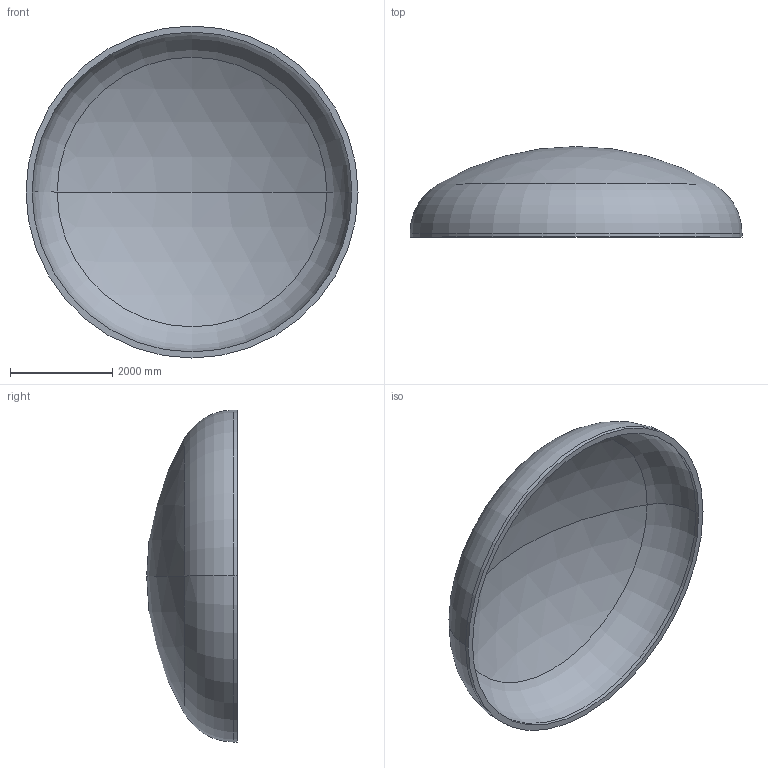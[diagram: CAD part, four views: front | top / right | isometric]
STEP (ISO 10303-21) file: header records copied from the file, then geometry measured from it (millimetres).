
FILE_DESCRIPTION (( 'STEP AP203' ), '1' );
FILE_NAME ('DIN 28013 Korbbogenform_-_Boden DIN 28013 - 6500 x 75 - I - s=118.step', '2016-07-04T10:44:35', ( '' ), ( '' ), 'SwSTEP 2.0', 'SolidWorks 2013', '' );
FILE_SCHEMA (( 'CONFIG_CONTROL_DESIGN' ));
Length unit declared in the file: millimetre
Products named in the file (1): DIN 28013 Korbbogenform_-_Boden DIN 28013 - 6500 x 75 - I - s=118
Bounding box: 6500 x 1774.36 x 6500 mm (x, y, z)
Volume: 5471213964.5 mm3; surface area: 95127425.7 mm2
Topology: 1 solids, 1 shells, 13 faces, 24 edges, 14 vertices
Faces by surface type: torus 4, cylinder 4, sphere 4, plane 1
Entity records: 407 total; most frequent: DIRECTION 72, CARTESIAN_POINT 52, ORIENTED_EDGE 48, AXIS2_PLACEMENT_3D 34, EDGE_CURVE 24, CIRCLE 20, VERTEX_POINT 14, EDGE_LOOP 14
